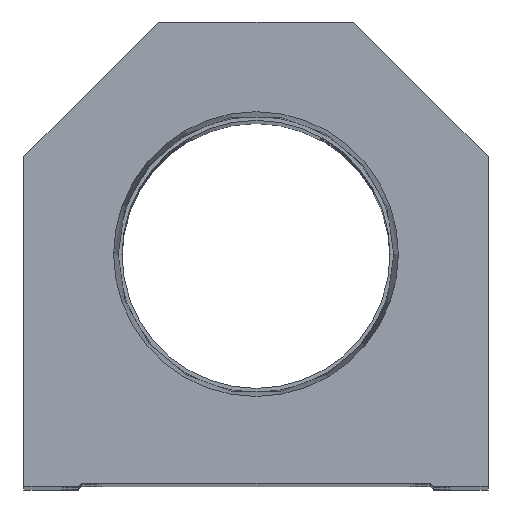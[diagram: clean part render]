
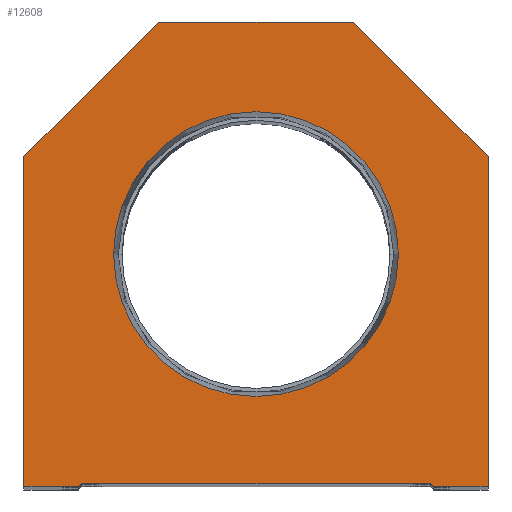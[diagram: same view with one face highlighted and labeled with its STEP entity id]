
A CAD part, top view. The second image highlights one B-rep face of the part: STEP entity #12608.
In plain terms, the highlighted planar face has unit normal (0, 0, 1).
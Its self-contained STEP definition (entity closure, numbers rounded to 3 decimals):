
#20 = AXIS2_PLACEMENT_3D ( 'NONE', #18682, #17469, #3747 ) ;
#835 = DIRECTION ( 'NONE',  ( 0.707, 0.707, 0. ) ) ;
#884 = DIRECTION ( 'NONE',  ( 0., 0., 1. ) ) ;
#1163 = LINE ( 'NONE', #16456, #3240 ) ;
#1382 = DIRECTION ( 'NONE',  ( -1., 0., 0. ) ) ;
#1422 = DIRECTION ( 'NONE',  ( 1., 0., 0. ) ) ;
#1638 = EDGE_CURVE ( 'NONE', #19210, #7358, #9916, .T. ) ;
#1712 = EDGE_CURVE ( 'NONE', #7358, #3866, #13417, .T. ) ;
#2064 = EDGE_LOOP ( 'NONE', ( #2627, #13064, #18995, #14618, #10149, #4814, #15857, #4601, #11481, #19686 ) ) ;
#2524 = LINE ( 'NONE', #5641, #5472 ) ;
#2627 = ORIENTED_EDGE ( 'NONE', *, *, #15617, .T. ) ;
#2705 = EDGE_CURVE ( 'NONE', #3866, #5912, #8300, .T. ) ;
#2734 = DIRECTION ( 'NONE',  ( -0.707, 0.707, 0. ) ) ;
#3046 = EDGE_CURVE ( 'NONE', #10127, #4055, #19103, .T. ) ;
#3240 = VECTOR ( 'NONE', #2734, 1000. ) ;
#3375 = DIRECTION ( 'NONE',  ( 1., 0., 0. ) ) ;
#3424 = VERTEX_POINT ( 'NONE', #16947 ) ;
#3505 = EDGE_CURVE ( 'NONE', #11086, #10127, #2524, .T. ) ;
#3541 = EDGE_CURVE ( 'NONE', #5912, #17974, #7049, .T. ) ;
#3580 = CARTESIAN_POINT ( 'NONE',  ( 14.55, 14.55, 0. ) ) ;
#3747 = DIRECTION ( 'NONE',  ( 1., 0., 0. ) ) ;
#3848 = CARTESIAN_POINT ( 'NONE',  ( 38.1, 0., 0. ) ) ;
#3850 = VECTOR ( 'NONE', #13127, 1000. ) ;
#3866 = VERTEX_POINT ( 'NONE', #6211 ) ;
#4055 = VERTEX_POINT ( 'NONE', #12974 ) ;
#4258 = CARTESIAN_POINT ( 'NONE',  ( -38.1, 54.1, 0. ) ) ;
#4601 = ORIENTED_EDGE ( 'NONE', *, *, #16175, .T. ) ;
#4673 = EDGE_CURVE ( 'NONE', #17974, #11397, #16367, .T. ) ;
#4814 = ORIENTED_EDGE ( 'NONE', *, *, #4673, .T. ) ;
#5278 = DIRECTION ( 'NONE',  ( 1., 0., 0. ) ) ;
#5285 = FACE_OUTER_BOUND ( 'NONE', #2064, .T. ) ;
#5472 = VECTOR ( 'NONE', #11730, 1000. ) ;
#5478 = EDGE_CURVE ( 'NONE', #11397, #9736, #1163, .T. ) ;
#5555 = CARTESIAN_POINT ( 'NONE',  ( -16., 76.2, 0. ) ) ;
#5641 = CARTESIAN_POINT ( 'NONE',  ( -38.1, 54.1, 0. ) ) ;
#5912 = VERTEX_POINT ( 'NONE', #6306 ) ;
#6160 = VECTOR ( 'NONE', #10420, 1000. ) ;
#6211 = CARTESIAN_POINT ( 'NONE',  ( 28.6, 0.5, 0. ) ) ;
#6241 = CARTESIAN_POINT ( 'NONE',  ( -28.6, 0., 0. ) ) ;
#6306 = CARTESIAN_POINT ( 'NONE',  ( 29.1, 0., 0. ) ) ;
#6605 = FACE_BOUND ( 'NONE', #15662, .T. ) ;
#7023 = VECTOR ( 'NONE', #1422, 1000. ) ;
#7049 = LINE ( 'NONE', #19432, #3850 ) ;
#7206 = ORIENTED_EDGE ( 'NONE', *, *, #13366, .F. ) ;
#7358 = VERTEX_POINT ( 'NONE', #11215 ) ;
#7416 = CARTESIAN_POINT ( 'NONE',  ( -29.1, 0., 0. ) ) ;
#7475 = LINE ( 'NONE', #10272, #8386 ) ;
#7717 = AXIS2_PLACEMENT_3D ( 'NONE', #9575, #10978, #3375 ) ;
#7912 = EDGE_CURVE ( 'NONE', #3424, #8728, #17397, .T. ) ;
#7963 = VECTOR ( 'NONE', #835, 1000. ) ;
#8300 = LINE ( 'NONE', #3580, #16929 ) ;
#8332 = VECTOR ( 'NONE', #10154, 1000. ) ;
#8386 = VECTOR ( 'NONE', #1382, 1000. ) ;
#8510 = CARTESIAN_POINT ( 'NONE',  ( -38.1, 0., 0. ) ) ;
#8728 = VERTEX_POINT ( 'NONE', #12055 ) ;
#8791 = AXIS2_PLACEMENT_3D ( 'NONE', #14375, #884, #5278 ) ;
#8965 = CARTESIAN_POINT ( 'NONE',  ( 38.1, 0., 0. ) ) ;
#9575 = CARTESIAN_POINT ( 'NONE',  ( 0., 38.1, 0. ) ) ;
#9736 = VERTEX_POINT ( 'NONE', #10284 ) ;
#9916 = LINE ( 'NONE', #14538, #7963 ) ;
#10127 = VERTEX_POINT ( 'NONE', #4258 ) ;
#10149 = ORIENTED_EDGE ( 'NONE', *, *, #3541, .T. ) ;
#10154 = DIRECTION ( 'NONE',  ( 0., 1., 0. ) ) ;
#10272 = CARTESIAN_POINT ( 'NONE',  ( 16., 76.2, 0. ) ) ;
#10284 = CARTESIAN_POINT ( 'NONE',  ( 16., 76.2, 0. ) ) ;
#10420 = DIRECTION ( 'NONE',  ( 1., 0., 0. ) ) ;
#10978 = DIRECTION ( 'NONE',  ( 0., 0., 1. ) ) ;
#11086 = VERTEX_POINT ( 'NONE', #5555 ) ;
#11164 = PLANE ( 'NONE',  #20 ) ;
#11215 = CARTESIAN_POINT ( 'NONE',  ( -28.6, 0.5, 0. ) ) ;
#11397 = VERTEX_POINT ( 'NONE', #16424 ) ;
#11481 = ORIENTED_EDGE ( 'NONE', *, *, #3505, .T. ) ;
#11513 = VECTOR ( 'NONE', #11602, 1000. ) ;
#11602 = DIRECTION ( 'NONE',  ( 0., -1., 0. ) ) ;
#11730 = DIRECTION ( 'NONE',  ( -0.707, -0.707, 0. ) ) ;
#12055 = CARTESIAN_POINT ( 'NONE',  ( 23.374, 38.1, 0. ) ) ;
#12324 = LINE ( 'NONE', #6241, #6160 ) ;
#12608 = ADVANCED_FACE ( 'NONE', ( #6605, #5285 ), #11164, .T. ) ;
#12974 = CARTESIAN_POINT ( 'NONE',  ( -38.1, 0., 0. ) ) ;
#13064 = ORIENTED_EDGE ( 'NONE', *, *, #1638, .T. ) ;
#13127 = DIRECTION ( 'NONE',  ( 1., 0., 0. ) ) ;
#13366 = EDGE_CURVE ( 'NONE', #8728, #3424, #19192, .T. ) ;
#13417 = LINE ( 'NONE', #19621, #7023 ) ;
#14124 = DIRECTION ( 'NONE',  ( 0.707, -0.707, 0. ) ) ;
#14375 = CARTESIAN_POINT ( 'NONE',  ( 0., 38.1, 0. ) ) ;
#14538 = CARTESIAN_POINT ( 'NONE',  ( -14.55, 14.55, 0. ) ) ;
#14618 = ORIENTED_EDGE ( 'NONE', *, *, #2705, .T. ) ;
#15617 = EDGE_CURVE ( 'NONE', #4055, #19210, #12324, .T. ) ;
#15662 = EDGE_LOOP ( 'NONE', ( #7206, #15898 ) ) ;
#15857 = ORIENTED_EDGE ( 'NONE', *, *, #5478, .T. ) ;
#15898 = ORIENTED_EDGE ( 'NONE', *, *, #7912, .F. ) ;
#16175 = EDGE_CURVE ( 'NONE', #9736, #11086, #7475, .T. ) ;
#16367 = LINE ( 'NONE', #8965, #8332 ) ;
#16424 = CARTESIAN_POINT ( 'NONE',  ( 38.1, 54.1, 0. ) ) ;
#16456 = CARTESIAN_POINT ( 'NONE',  ( 38.1, 54.1, 0. ) ) ;
#16929 = VECTOR ( 'NONE', #14124, 1000. ) ;
#16947 = CARTESIAN_POINT ( 'NONE',  ( -23.374, 38.1, 0. ) ) ;
#17397 = CIRCLE ( 'NONE', #8791, 23.374 ) ;
#17469 = DIRECTION ( 'NONE',  ( 0., 0., 1. ) ) ;
#17974 = VERTEX_POINT ( 'NONE', #3848 ) ;
#18682 = CARTESIAN_POINT ( 'NONE',  ( 0., 0., 0. ) ) ;
#18995 = ORIENTED_EDGE ( 'NONE', *, *, #1712, .T. ) ;
#19103 = LINE ( 'NONE', #8510, #11513 ) ;
#19192 = CIRCLE ( 'NONE', #7717, 23.374 ) ;
#19210 = VERTEX_POINT ( 'NONE', #7416 ) ;
#19432 = CARTESIAN_POINT ( 'NONE',  ( 28.6, 0., 0. ) ) ;
#19621 = CARTESIAN_POINT ( 'NONE',  ( -28.6, 0.5, 0. ) ) ;
#19686 = ORIENTED_EDGE ( 'NONE', *, *, #3046, .T. ) ;
